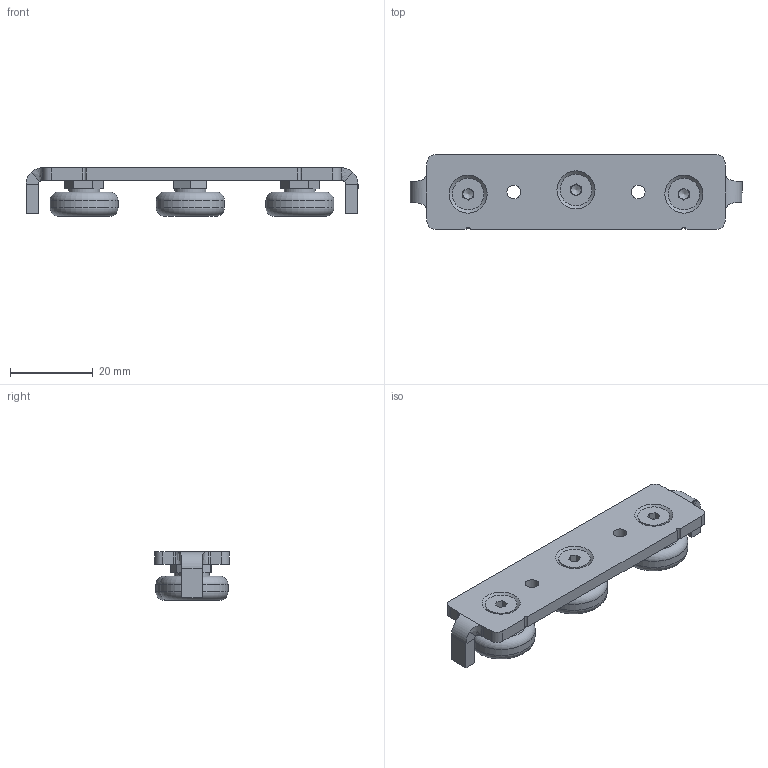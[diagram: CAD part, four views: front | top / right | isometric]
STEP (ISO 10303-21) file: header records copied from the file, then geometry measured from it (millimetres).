
FILE_DESCRIPTION (( 'STEP AP214' ), '1' );
FILE_NAME ('RLS22-3.STEP', '2022-02-01T12:40:01', ( '' ), ( '' ), 'SwSTEP 2.0', 'SolidWorks 2019', '' );
FILE_SCHEMA (( 'AUTOMOTIVE_DESIGN' ));
Length unit declared in the file: millimetre
Products named in the file (5): DIN 7991 - M4 x 8 (V2A)_DIN 7991 - M4 x 8 --- 5.6C_V2A; 42735; 29286_01; RLS22-3; 40945
Assembly tree (7 placements, depth 2):
  RLS22-3
    29286_01
    40945  x2
    42735
    DIN 7991 - M4 x 8 (V2A)_DIN 7991 - M4 x 8 --- 5.6C_V2A  x3
Bounding box: 80 x 18 x 11.65 mm (x, y, z)
Volume: 7901.5 mm3; surface area: 6484 mm2
Topology: 7 solids, 7 shells, 161 faces, 359 edges, 218 vertices
Faces by surface type: plane 96, cylinder 34, cone 18, torus 9, bspline 4
Full cylindrical faces by diameter (mm): 3.3 x5, 4 x3, 4.5 x3, 7.5 x3, 7.64 x3, 16.4 x3
Entity records: 3269 total; most frequent: CARTESIAN_POINT 734, DIRECTION 486, ORIENTED_EDGE 418, EDGE_CURVE 209, AXIS2_PLACEMENT_3D 183, EDGE_LOOP 150, VERTEX_POINT 145, FACE_OUTER_BOUND 122
